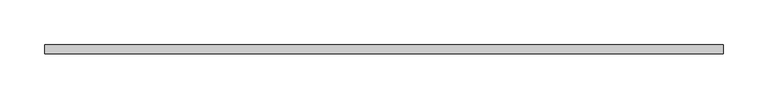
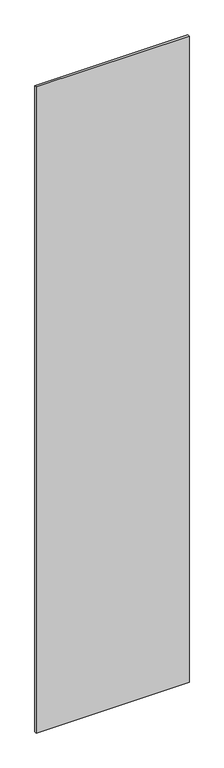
"""IFC4 building model written with IfcOpenShell, lengths in millimetres: plate geometry, システム パネル : 標準."""

from ifc_helpers import new_model, si_unit, origin, origin_with_axes, place, context, project, spatial, polyline, outline, extrude, source, transform, mapped, element, save


def plate_d9257b88(model_context):
    return source(origin(), model_context, "Body", "SweptSolid", [
        extrude(outline(polyline([(380.0, -5.0), (-380.0, -5.0), (-380.0, 5.0), (380.0, 5.0), (380.0, -5.0)])), origin_with_axes(), (0.0, 0.0, 1.0), 3395.0),
    ])


if __name__ == "__main__":
    model = new_model("IFC4")
    model_context = context("Model", 3, world=origin())
    ifc_project = project(units=[si_unit("LENGTHUNIT", "METRE", prefix="MILLI")], contexts=[model_context])
    site = spatial("IfcSite", under=ifc_project)
    building = spatial("IfcBuilding", under=site)
    placement = place(None, origin())
    plate_shape = plate_d9257b88(model_context)
    element("IfcPlate", 1, ObjectType="システム パネル : 標準", at=placement, inside=building, context=model_context, shape_type="MappedRepresentation", body=[
        mapped(plate_shape, transform((0.0, 0.0, 0.0), x_axis=(1.0, 0.0, 0.0), y_axis=(0.0, 1.0, 0.0), z_axis=(0.0, 0.0, 1.0))),
    ])
    save(model, "model.ifc")
